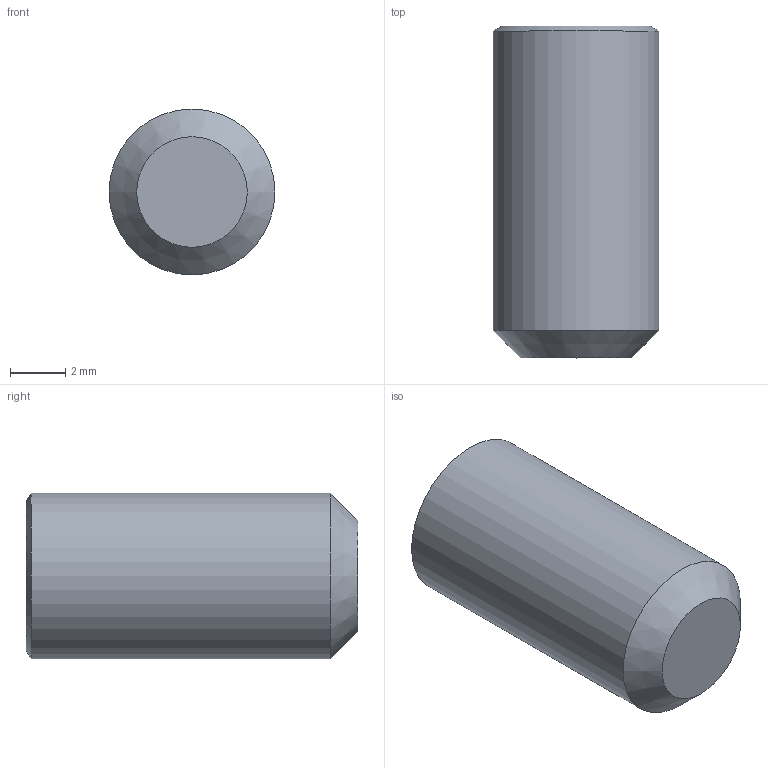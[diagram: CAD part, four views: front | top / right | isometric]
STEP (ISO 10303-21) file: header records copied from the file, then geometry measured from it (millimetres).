
FILE_DESCRIPTION(/* description */ (''),/* implementation_level */ '2;1');
FILE_NAME(/* name */ 'C:\Users\D\Documents\Inventor\各種小物\JIS\止めねじ\平先\M6\M6x12.stp',/* time_stamp */ '2022-06-23T14:26:11+09:00',/* author */ ('D'),/* organization */ (''),/* preprocessor_version */ 'ST-DEVELOPER v18',/* originating_system */ 'Autodesk Inventor 2020',/* authorisation */ '');
FILE_SCHEMA (('AUTOMOTIVE_DESIGN { 1 0 10303 214 3 1 1 }'));
Length unit declared in the file: millimetre
Products named in the file (1): M1.6x2
Bounding box: 6 x 12 x 6 mm (x, y, z)
Volume: 300 mm3; surface area: 306.4 mm2
Topology: 1 solids, 1 shells, 12 faces, 28 edges, 18 vertices
Faces by surface type: plane 8, cone 3, cylinder 1
Full cylindrical faces by diameter (mm): 6 x1
Entity records: 369 total; most frequent: CARTESIAN_POINT 72, ORIENTED_EDGE 54, DIRECTION 50, EDGE_CURVE 27, VERTEX_POINT 18, AXIS2_PLACEMENT_3D 17, LINE 16, VECTOR 16
